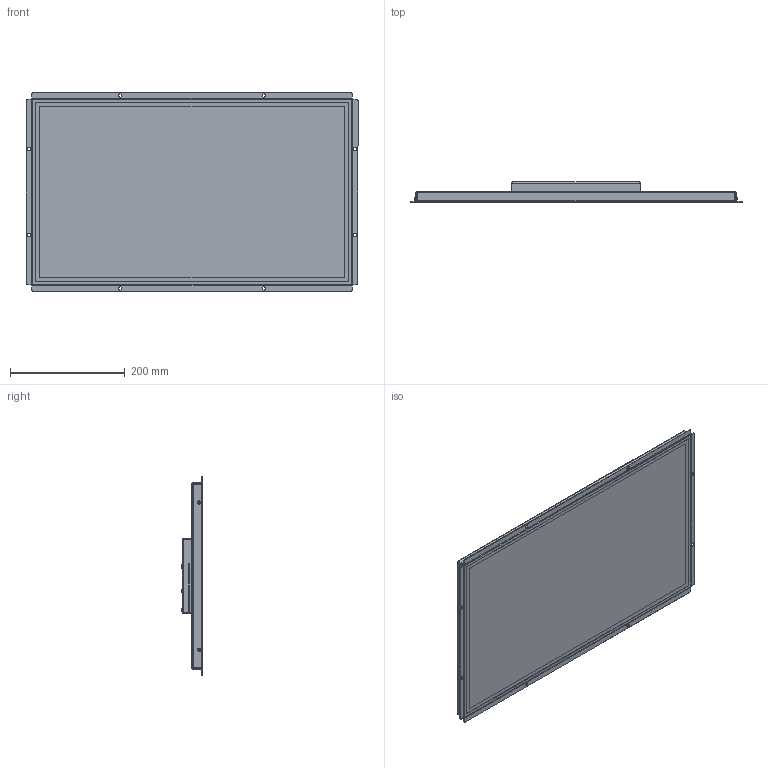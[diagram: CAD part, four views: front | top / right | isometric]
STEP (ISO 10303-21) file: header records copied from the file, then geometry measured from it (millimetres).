
FILE_DESCRIPTION(/* description */ ('fel4B-02A-24,0 Zoll LT-Line'),/* implementation_level */ '2;1');
FILE_NAME(/* name */ 'Z:\Teildatei Inventor\Inventor-Bibliothek\0000 0000 Bauteile\Bildschirme\TFT 24 Zoll\20000150 fel4B-02A-24,0 Zoll LT-Line.stp',/* time_stamp */ '2019-08-19T15:10:55+02:00',/* author */ ('Uwe Kosiol'),/* organization */ (''),/* preprocessor_version */ 'ST-DEVELOPER v17.2',/* originating_system */ 'Autodesk Inventor 2019',/* authorisation */ '');
FILE_SCHEMA (('AUTOMOTIVE_DESIGN { 1 0 10303 214 3 1 1 }'));
Length unit declared in the file: millimetre
Products named in the file (10): 20000150; 00003384; 00003397; 00003398; 00003295; ANSI B18.3.4M - M3 x 0.5 x 5; 00003435; 40000016; ANSI B18.3.4M - M3 x 0.5 x 12; ANSI B18.3.4M - M3 x 0.5 x 4
Assembly tree (26 placements, depth 2):
  20000150
    00003384
    00003397
    00003398
    00003295
    ANSI B18.3.4M - M3 x 0.5 x 5  x4
    ANSI B18.3.4M - M3 x 0.5 x 4  x6
    00003435  x4
    40000016  x4
    ANSI B18.3.4M - M3 x 0.5 x 12  x4
Bounding box: 578 x 37.65 x 346 mm (x, y, z)
Volume: 3351007.7 mm3; surface area: 955231.6 mm2
Topology: 34 solids, 34 shells, 1240 faces, 3156 edges, 2055 vertices
Faces by surface type: plane 792, cylinder 207, bspline 139, cone 84, torus 14, sphere 4
Full cylindrical faces by diameter (mm): 0.4 x11, 1.5 x3, 2.459 x8, 3 x18, 3.1 x2, 3.3 x4, 3.45 x4, 4.4 x4, 5.42 x4, 5.7 x14, 6 x8
Entity records: 31543 total; most frequent: CARTESIAN_POINT 7519, ORIENTED_EDGE 4956, DIRECTION 4360, EDGE_CURVE 2478, LINE 1774, VECTOR 1774, VERTEX_POINT 1604, AXIS2_PLACEMENT_3D 1293
